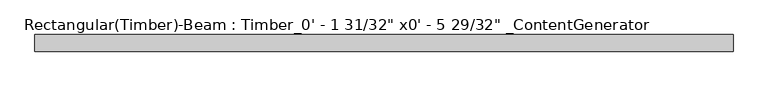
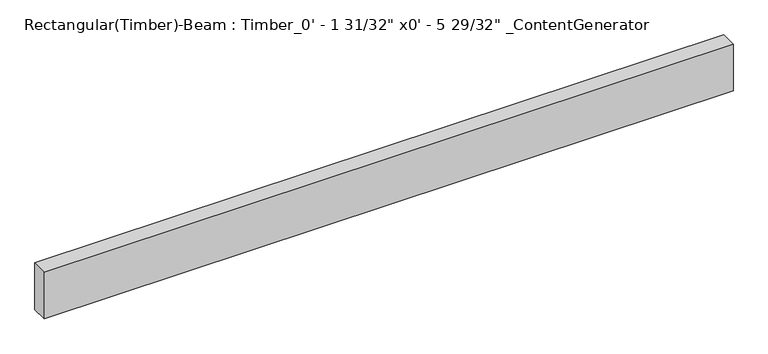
"""IFC4 building model written with IfcOpenShell, lengths in millimetres: beam geometry."""

from ifc_helpers import new_model, si_unit, frame, origin, place, context, project, spatial, polyline, outline, extrude, source, transform, mapped, element, save


def beam_e0216813(model_context):
    return source(origin(), model_context, "Body", "SweptSolid", [
        extrude(outline(polyline([(1066.8, 25.4), (1066.8, -25.4), (-1066.8, -25.4), (-1066.8, 25.4), (1066.8, 25.4)])), frame((0.0, 0.0, -76.2), z_axis=(0.0, 0.0, 1.0), x_axis=(1.0, 0.0, 0.0)), (0.0, 0.0, 1.0), 152.4),
    ])


if __name__ == "__main__":
    model = new_model("IFC4")
    model_context = context("Model", 3, world=origin())
    ifc_project = project(units=[si_unit("LENGTHUNIT", "METRE", prefix="MILLI")], contexts=[model_context])
    site = spatial("IfcSite", under=ifc_project)
    building = spatial("IfcBuilding", under=site)
    placement = place(None, origin())
    beam_shape = beam_e0216813(model_context)
    element("IfcBeam", 1, ObjectType="Rectangular(Timber)-Beam : Timber_0' - 1 31/32\" x0' - 5 29/32\" _ContentGenerator", at=placement, inside=building, context=model_context, shape_type="MappedRepresentation", body=[
        mapped(beam_shape, transform((0.0, 0.0, 0.0), x_axis=(1.0, 0.0, 0.0), y_axis=(0.0, 1.0, 0.0), z_axis=(0.0, 0.0, 1.0))),
    ])
    save(model, "model.ifc")
